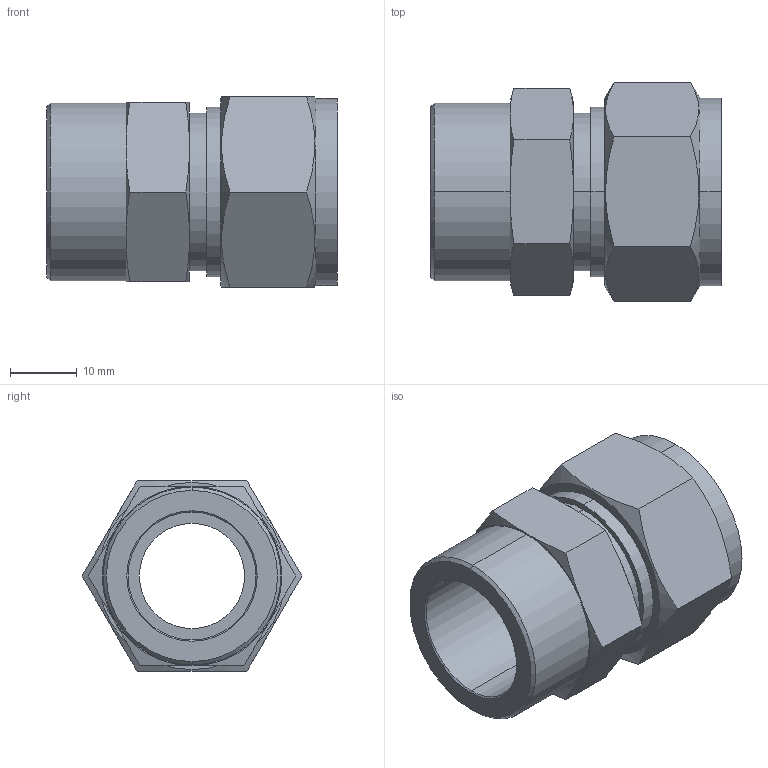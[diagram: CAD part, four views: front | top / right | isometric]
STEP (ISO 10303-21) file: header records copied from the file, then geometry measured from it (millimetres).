
FILE_DESCRIPTION (( 'STEP AP203' ), '1' );
FILE_NAME ('DCW12-12 SS.STEP', '2009-09-08T05:53:28', ( ' ' ), ( '' ), 'SwSTEP 2.0', 'SolidWorks 2008', '' );
FILE_SCHEMA (( 'CONFIG_CONTROL_DESIGN' ));
Length unit declared in the file: millimetre
Products named in the file (1): DCW12-12 SS
Bounding box: 43.6 x 33 x 28.58 mm (x, y, z)
Volume: 14803.7 mm3; surface area: 7765.9 mm2
Topology: 1 solids, 1 shells, 54 faces, 120 edges, 74 vertices
Faces by surface type: cone 20, plane 20, cylinder 14
Entity records: 1743 total; most frequent: CARTESIAN_POINT 505, ORIENTED_EDGE 240, DIRECTION 236, EDGE_CURVE 120, AXIS2_PLACEMENT_3D 101, VERTEX_POINT 74, EDGE_LOOP 62, FACE_OUTER_BOUND 54
